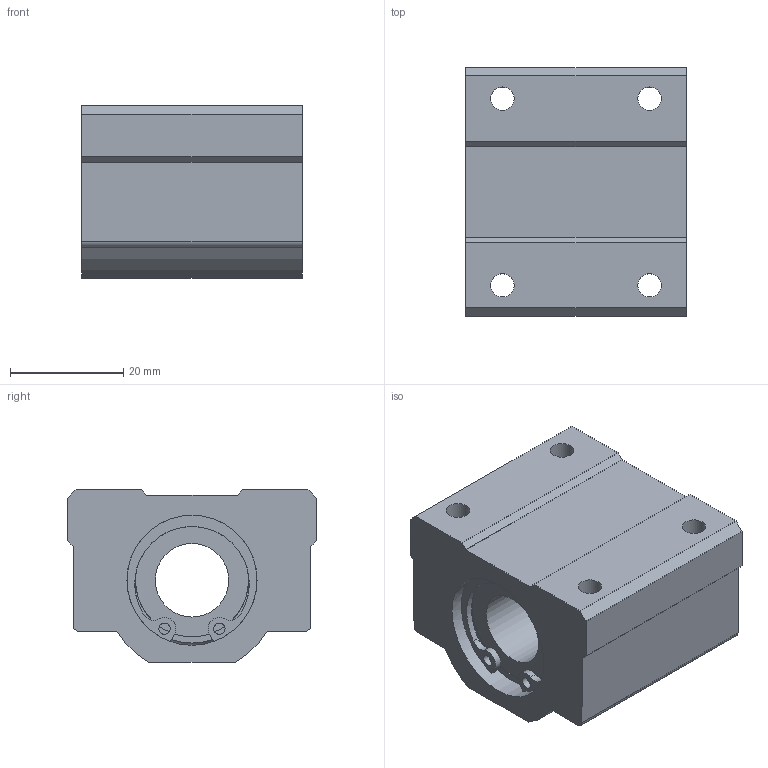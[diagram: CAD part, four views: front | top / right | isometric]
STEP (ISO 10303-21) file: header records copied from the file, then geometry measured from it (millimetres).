
FILE_DESCRIPTION((''),'2;1');
FILE_NAME('D:\製品 (図面)\カタログ用3D\リニアベアリング関連(改)\STEP形式\LH-B\LH13B.stp','2010-01-25T10:19:24',('Tsuchiya'),(''),'Autodesk Inventor 10','Autodesk Inventor 10','');
FILE_SCHEMA(('AUTOMOTIVE_DESIGN { 1 0 10303 214 1 1 1 1 }'));
Length unit declared in the file: millimetre
Products named in the file (1): LH13B
Bounding box: 39 x 44 x 30.5 mm (x, y, z)
Volume: 37210.8 mm3; surface area: 11458.5 mm2
Topology: 1 solids, 3 shells, 81 faces, 223 edges, 142 vertices
Faces by surface type: plane 41, cylinder 20, bspline 18, torus 2
Full cylindrical faces by diameter (mm): 2 x2, 13 x1, 20 x2, 22 x2, 23 x4
Entity records: 2548 total; most frequent: CARTESIAN_POINT 598, DIRECTION 416, ORIENTED_EDGE 368, EDGE_CURVE 184, AXIS2_PLACEMENT_3D 168, VERTEX_POINT 124, EDGE_LOOP 122, CIRCLE 104
